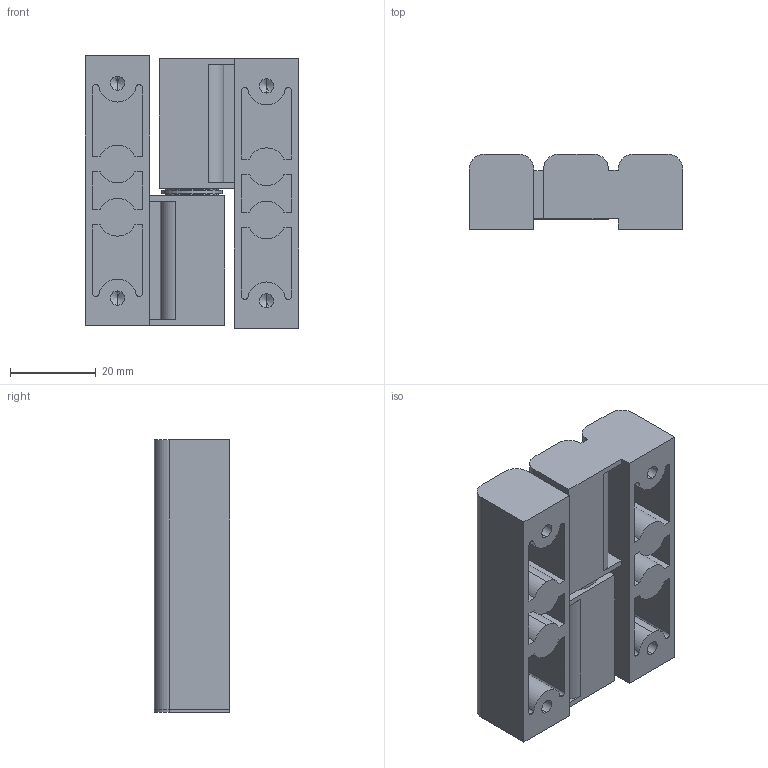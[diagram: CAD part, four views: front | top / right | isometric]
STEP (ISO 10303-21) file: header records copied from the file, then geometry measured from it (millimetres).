
FILE_DESCRIPTION (( 'STEP AP203' ), '1' );
FILE_NAME ('XG02-025-3.STEP', '2024-03-14T09:01:03', ( '' ), ( '' ), 'SwSTEP 2.0', 'SolidWorks 2020', '' );
FILE_SCHEMA (( 'CONFIG_CONTROL_DESIGN' ));
Length unit declared in the file: millimetre
Products named in the file (5): CL203-3-D ; CL203-3-B ; XG02-025-3; CL203-3-C ; CL203-3-A
Assembly tree (4 placements, depth 2):
  XG02-025-3
    CL203-3-A
    CL203-3-D 
    CL203-3-C 
    CL203-3-B 
Bounding box: 49.67 x 17.5 x 63.35 mm (x, y, z)
Volume: 33684 mm3; surface area: 22367.3 mm2
Topology: 4 solids, 4 shells, 159 faces, 407 edges, 262 vertices
Faces by surface type: plane 74, cylinder 69, cone 12, torus 4
Entity records: 5314 total; most frequent: DIRECTION 881, CARTESIAN_POINT 827, ORIENTED_EDGE 798, EDGE_CURVE 399, AXIS2_PLACEMENT_3D 316, VERTEX_POINT 262, LINE 249, VECTOR 249
